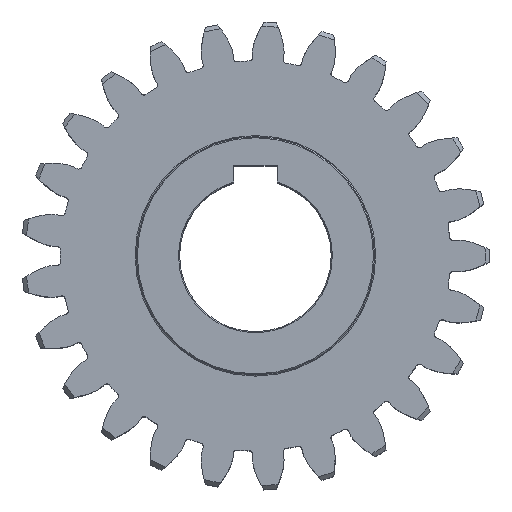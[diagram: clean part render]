
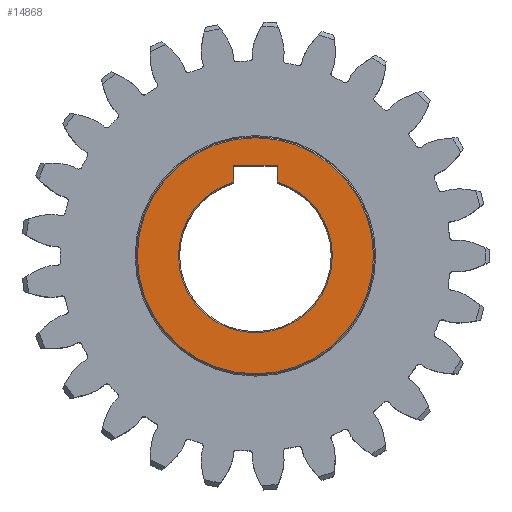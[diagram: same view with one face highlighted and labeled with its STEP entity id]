
A CAD part, top view. The second image highlights one B-rep face of the part: STEP entity #14868.
In plain terms, the highlighted planar face has unit normal (0, 0, 1).
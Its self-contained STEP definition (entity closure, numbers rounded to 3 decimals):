
#413 = ORIENTED_EDGE ( 'NONE', *, *, #9980, .T. ) ;
#563 = PLANE ( 'NONE',  #12579 ) ;
#1005 = EDGE_CURVE ( 'NONE', #15486, #3354, #15707, .T. ) ;
#1451 = EDGE_CURVE ( 'NONE', #6131, #4438, #15145, .T. ) ;
#2156 = CARTESIAN_POINT ( 'NONE',  ( -27.25, 0., 25. ) ) ;
#2333 = EDGE_CURVE ( 'NONE', #11586, #8971, #12782, .T. ) ;
#2357 = DIRECTION ( 'NONE',  ( 0., 0., -1. ) ) ;
#2461 = AXIS2_PLACEMENT_3D ( 'NONE', #7430, #2357, #13675 ) ;
#2639 = ORIENTED_EDGE ( 'NONE', *, *, #1005, .T. ) ;
#2782 = DIRECTION ( 'NONE',  ( 1., 0., 0. ) ) ;
#2928 = CIRCLE ( 'NONE', #8048, 17.75 ) ;
#2931 = CARTESIAN_POINT ( 'NONE',  ( 5., 14.2, 25. ) ) ;
#3354 = VERTEX_POINT ( 'NONE', #14256 ) ;
#3452 = CARTESIAN_POINT ( 'NONE',  ( -5., 20.8, 25. ) ) ;
#4095 = EDGE_CURVE ( 'NONE', #12215, #7687, #10599, .T. ) ;
#4230 = CARTESIAN_POINT ( 'NONE',  ( 5., 20.8, 25. ) ) ;
#4399 = CARTESIAN_POINT ( 'NONE',  ( 0., 0., 25. ) ) ;
#4438 = VERTEX_POINT ( 'NONE', #12226 ) ;
#4505 = ORIENTED_EDGE ( 'NONE', *, *, #4095, .T. ) ;
#5665 = DIRECTION ( 'NONE',  ( 1., 0., 0. ) ) ;
#5995 = VECTOR ( 'NONE', #2782, 1000. ) ;
#6010 = EDGE_CURVE ( 'NONE', #8971, #6131, #2928, .T. ) ;
#6131 = VERTEX_POINT ( 'NONE', #6779 ) ;
#6243 = CARTESIAN_POINT ( 'NONE',  ( 0., 0., 25. ) ) ;
#6259 = CARTESIAN_POINT ( 'NONE',  ( 5., 17.031, 25. ) ) ;
#6455 = DIRECTION ( 'NONE',  ( 0., 0., -1. ) ) ;
#6779 = CARTESIAN_POINT ( 'NONE',  ( -17.75, 0., 25. ) ) ;
#7018 = EDGE_LOOP ( 'NONE', ( #4505, #9078 ) ) ;
#7059 = FACE_OUTER_BOUND ( 'NONE', #7018, .T. ) ;
#7082 = CARTESIAN_POINT ( 'NONE',  ( 0., 0., 25. ) ) ;
#7113 = EDGE_CURVE ( 'NONE', #7687, #12215, #9210, .T. ) ;
#7430 = CARTESIAN_POINT ( 'NONE',  ( 0., 0., 25. ) ) ;
#7555 = DIRECTION ( 'NONE',  ( 1., 0., 0. ) ) ;
#7687 = VERTEX_POINT ( 'NONE', #9370 ) ;
#7768 = DIRECTION ( 'NONE',  ( 0., 1., 0. ) ) ;
#7932 = LINE ( 'NONE', #15701, #12224 ) ;
#8048 = AXIS2_PLACEMENT_3D ( 'NONE', #8901, #6455, #7555 ) ;
#8079 = DIRECTION ( 'NONE',  ( 0., -1., 0. ) ) ;
#8346 = ORIENTED_EDGE ( 'NONE', *, *, #6010, .T. ) ;
#8901 = CARTESIAN_POINT ( 'NONE',  ( 0., 0., 25. ) ) ;
#8949 = AXIS2_PLACEMENT_3D ( 'NONE', #7082, #12235, #10801 ) ;
#8971 = VERTEX_POINT ( 'NONE', #12584 ) ;
#9078 = ORIENTED_EDGE ( 'NONE', *, *, #7113, .T. ) ;
#9210 = CIRCLE ( 'NONE', #8949, 27.25 ) ;
#9370 = CARTESIAN_POINT ( 'NONE',  ( 27.25, 0., 25. ) ) ;
#9785 = DIRECTION ( 'NONE',  ( 0., 0., -1. ) ) ;
#9980 = EDGE_CURVE ( 'NONE', #4438, #15486, #7932, .T. ) ;
#10290 = DIRECTION ( 'NONE',  ( 0., 0., 1. ) ) ;
#10599 = CIRCLE ( 'NONE', #12209, 27.25 ) ;
#10631 = AXIS2_PLACEMENT_3D ( 'NONE', #4399, #9785, #5665 ) ;
#10801 = DIRECTION ( 'NONE',  ( 1., 0., 0. ) ) ;
#11028 = DIRECTION ( 'NONE',  ( 0., 0., 1. ) ) ;
#11303 = EDGE_LOOP ( 'NONE', ( #15684, #14399, #8346, #14875, #413, #2639 ) ) ;
#11586 = VERTEX_POINT ( 'NONE', #6259 ) ;
#12051 = FACE_BOUND ( 'NONE', #11303, .T. ) ;
#12209 = AXIS2_PLACEMENT_3D ( 'NONE', #6243, #10290, #12827 ) ;
#12215 = VERTEX_POINT ( 'NONE', #2156 ) ;
#12224 = VECTOR ( 'NONE', #7768, 1000. ) ;
#12226 = CARTESIAN_POINT ( 'NONE',  ( -5., 17.031, 25. ) ) ;
#12235 = DIRECTION ( 'NONE',  ( 0., 0., 1. ) ) ;
#12579 = AXIS2_PLACEMENT_3D ( 'NONE', #14826, #11028, #13567 ) ;
#12584 = CARTESIAN_POINT ( 'NONE',  ( 17.75, 0., 25. ) ) ;
#12678 = EDGE_CURVE ( 'NONE', #3354, #11586, #12989, .T. ) ;
#12782 = CIRCLE ( 'NONE', #10631, 17.75 ) ;
#12827 = DIRECTION ( 'NONE',  ( 1., 0., 0. ) ) ;
#12989 = LINE ( 'NONE', #2931, #15968 ) ;
#13567 = DIRECTION ( 'NONE',  ( 1., 0., 0. ) ) ;
#13675 = DIRECTION ( 'NONE',  ( 1., 0., 0. ) ) ;
#14256 = CARTESIAN_POINT ( 'NONE',  ( 5., 20.8, 25. ) ) ;
#14399 = ORIENTED_EDGE ( 'NONE', *, *, #2333, .T. ) ;
#14826 = CARTESIAN_POINT ( 'NONE',  ( 0., 0., 25. ) ) ;
#14868 = ADVANCED_FACE ( 'NONE', ( #7059, #12051 ), #563, .T. ) ;
#14875 = ORIENTED_EDGE ( 'NONE', *, *, #1451, .T. ) ;
#15145 = CIRCLE ( 'NONE', #2461, 17.75 ) ;
#15486 = VERTEX_POINT ( 'NONE', #3452 ) ;
#15684 = ORIENTED_EDGE ( 'NONE', *, *, #12678, .T. ) ;
#15701 = CARTESIAN_POINT ( 'NONE',  ( -5., 14.2, 25. ) ) ;
#15707 = LINE ( 'NONE', #4230, #5995 ) ;
#15968 = VECTOR ( 'NONE', #8079, 1000. ) ;
